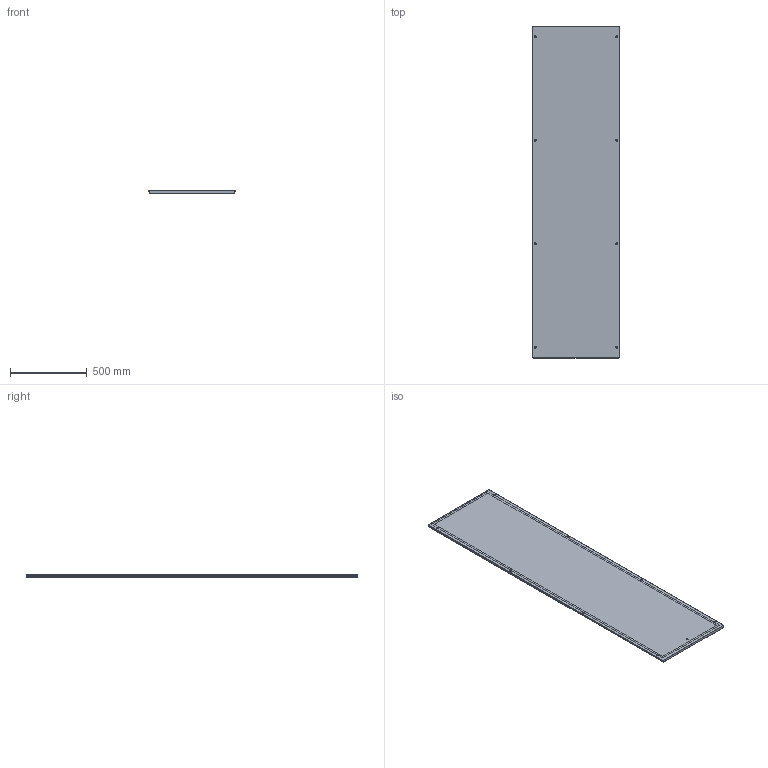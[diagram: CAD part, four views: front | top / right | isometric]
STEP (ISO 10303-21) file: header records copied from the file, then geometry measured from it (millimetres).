
FILE_DESCRIPTION( ( 'STEP AP214' ), '1' );
FILE_NAME( 'p:/temp/worker_258/temp/exporttempdir_4336_77_xgbPU/format_0/SPM2206R5(0).stp', '2021-03-16T12:01:58', ( 'License CC BY-ND 4.0' ), ( 'CADENAS' ), ' ', 'PARTsolutions', ' ' );
FILE_SCHEMA( ( 'AUTOMOTIVE_DESIGN { 1 0 10303 214 1 1 1 1 }' ) );
Length unit declared in the file: millimetre
Products named in the file (1): _SPM2206R5(0)
Bounding box: 562 x 2164 x 19.32 mm (x, y, z)
Volume: 2313109.5 mm3; surface area: 2688969.4 mm2
Topology: 1 solids, 1 shells, 114 faces, 323 edges, 212 vertices
Faces by surface type: plane 81, cone 26, cylinder 5, torus 2
Full cylindrical faces by diameter (mm): 8 x1, 9 x1
Entity records: 4511 total; most frequent: CARTESIAN_POINT 815, ORIENTED_EDGE 560, DIRECTION 541, EDGE_CURVE 280, VERTEX_POINT 196, LINE 185, VECTOR 185, AXIS2_PLACEMENT_3D 178
